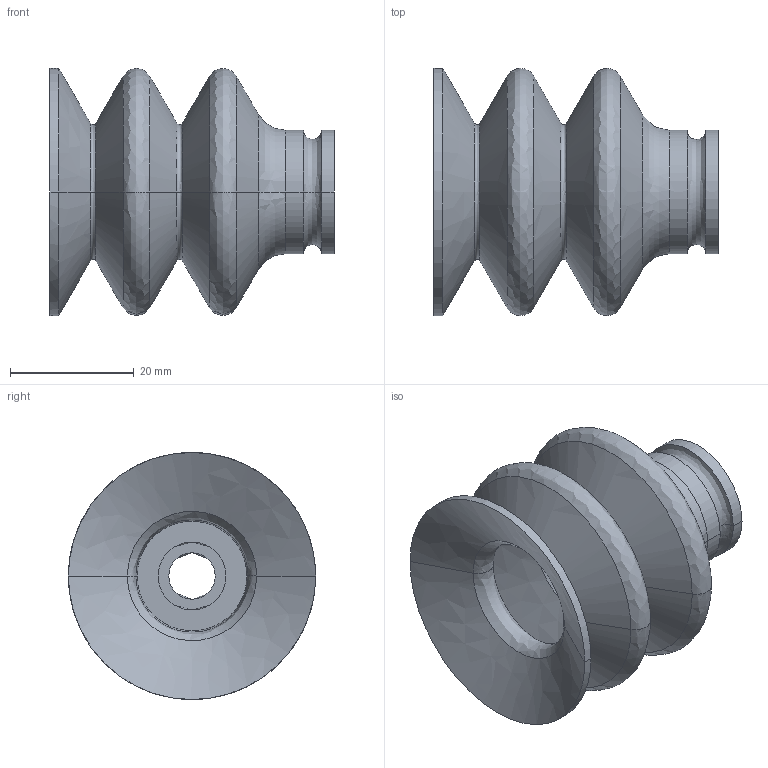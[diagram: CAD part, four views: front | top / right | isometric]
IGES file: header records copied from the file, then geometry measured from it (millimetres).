
Start section:  PTC IGES file: 210663_vaph-40c-3.igs
Global section: file name: 210663_vaph-40c-3.igs; native system: Pro/ENGINEER by Parametric Technology Corporation; preprocessor: 2004090; author: KAIHATSU01; organization: Unknown; date: 061017.105336; units: millimetre
Bounding box: 46 x 40 x 40 mm (x, y, z)
Volume: 15319.1 mm3; surface area: 12764.9 mm2
Topology: 1 solids, 1 shells, 59 faces, 118 edges, 64 vertices
Faces by surface type: bspline 59
